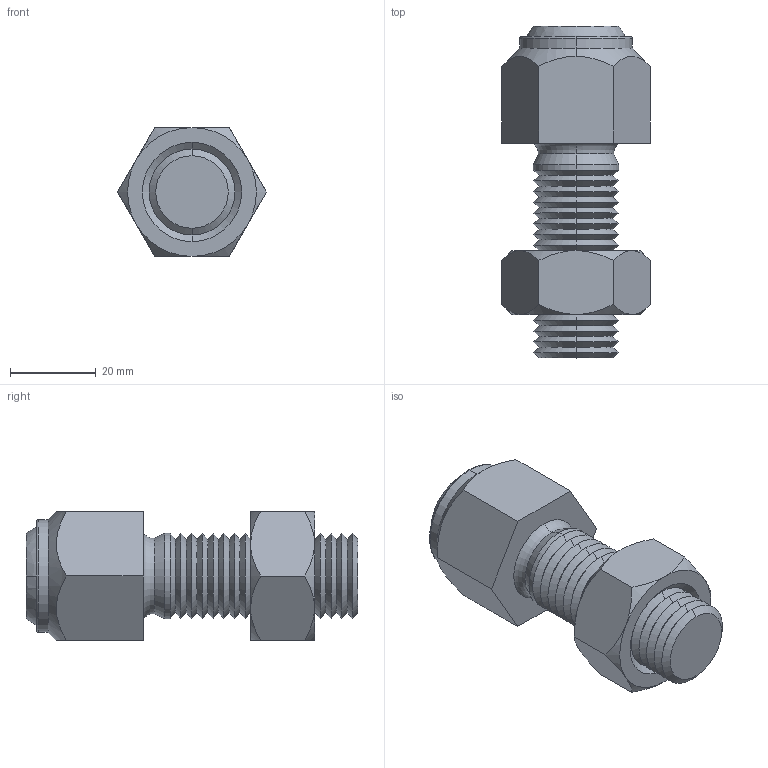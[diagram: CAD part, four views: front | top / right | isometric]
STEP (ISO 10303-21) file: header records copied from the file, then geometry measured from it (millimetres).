
FILE_DESCRIPTION (( 'STEP AP203' ), '1' );
FILE_NAME ('34120.W0030.step', '2017-03-27T09:20:19', ( 'User' ), ( '' ), 'SwSTEP 2.0', 'SolidWorks 2009', '' );
FILE_SCHEMA (( 'CONFIG_CONTROL_DESIGN' ));
Length unit declared in the file: millimetre
Products named in the file (4): Part1_34120.W0030; 34120.W0030; Part2_34120.W0030; Part3_34120.W0030
Assembly tree (3 placements, depth 2):
  34120.W0030
    Part2_34120.W0030
    Part1_34120.W0030
    Part3_34120.W0030
Bounding box: 34.64 x 77.3 x 30 mm (x, y, z)
Volume: 38804.2 mm3; surface area: 14230.5 mm2
Topology: 3 solids, 3 shells, 130 faces, 280 edges, 154 vertices
Faces by surface type: cone 90, plane 20, cylinder 8, torus 8, sphere 4
Entity records: 3982 total; most frequent: CARTESIAN_POINT 802, DIRECTION 644, ORIENTED_EDGE 540, EDGE_CURVE 270, AXIS2_PLACEMENT_3D 270, VERTEX_POINT 148, EDGE_LOOP 134, CIRCLE 134
